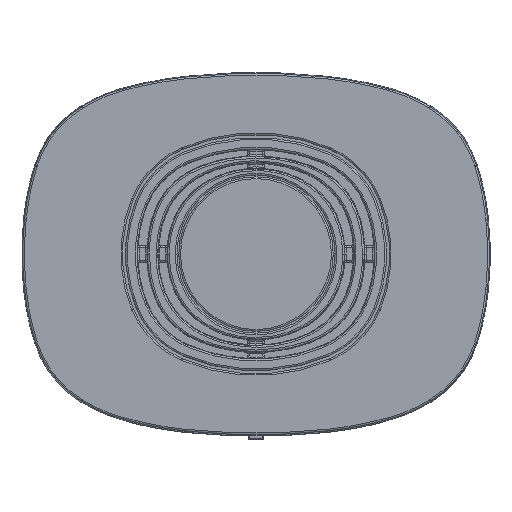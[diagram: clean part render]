
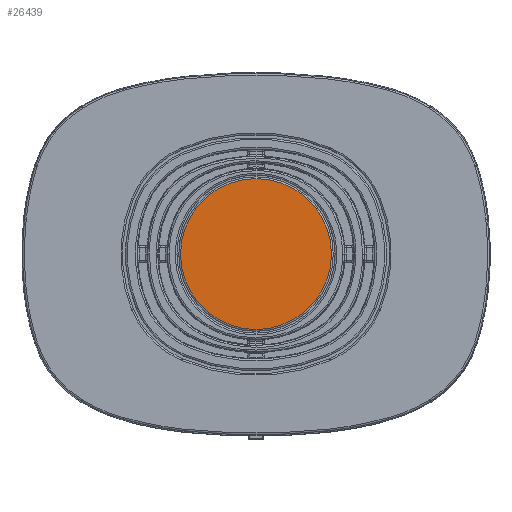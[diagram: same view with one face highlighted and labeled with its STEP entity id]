
A CAD part, top view. The second image highlights one B-rep face of the part: STEP entity #26439.
In plain terms, the highlighted planar face has unit normal (0, 0, 1).
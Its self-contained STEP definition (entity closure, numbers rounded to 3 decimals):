
#2472=CIRCLE('',#28937,86.2);
#6422=ORIENTED_EDGE('',*,*,#13659,.T.);
#13659=EDGE_CURVE('',#17400,#17400,#2472,.T.);
#17400=VERTEX_POINT('',#43975);
#22568=EDGE_LOOP('',(#6422));
#24300=FACE_BOUND('',#22568,.T.);
#25695=PLANE('',#28936);
#26439=ADVANCED_FACE('',(#24300),#25695,.T.);
#28936=AXIS2_PLACEMENT_3D('',#43973,#33145,#33146);
#28937=AXIS2_PLACEMENT_3D('',#43974,#33147,#33148);
#33145=DIRECTION('',(0.,0.,1.));
#33146=DIRECTION('',(1.,0.,0.));
#33147=DIRECTION('',(0.,0.,1.));
#33148=DIRECTION('',(1.,0.,0.));
#43973=CARTESIAN_POINT('',(-14.985,123.28,859.51));
#43974=CARTESIAN_POINT('',(0.,135.025,859.51));
#43975=CARTESIAN_POINT('',(86.2,135.025,859.51));
